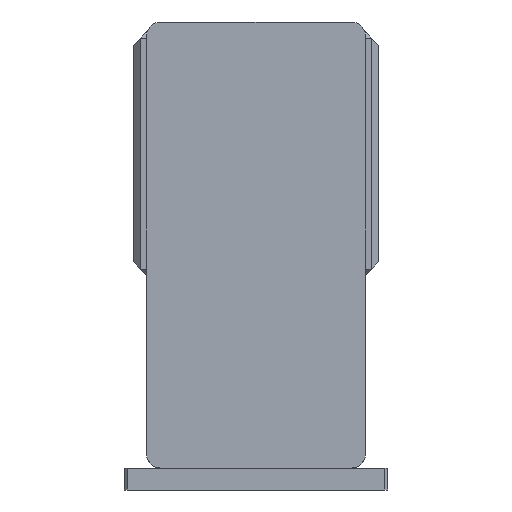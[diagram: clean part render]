
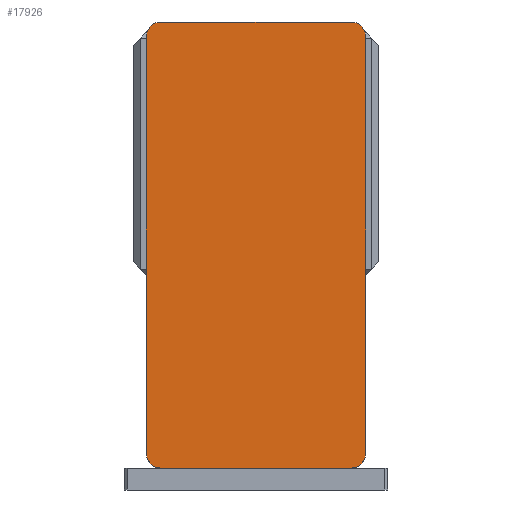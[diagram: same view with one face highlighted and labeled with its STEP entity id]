
A CAD part, left-side view. The second image highlights one B-rep face of the part: STEP entity #17926.
In plain terms, the highlighted planar face has unit normal (-1, 0, 0) as drawn and (0, 0, 1) by its records, which use the part's own axes.
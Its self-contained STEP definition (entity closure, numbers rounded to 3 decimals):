
#147 = DIRECTION ( 'NONE',  ( 1., 0., 0. ) ) ;
#178 = CARTESIAN_POINT ( 'NONE',  ( 65., 142.5, 105. ) ) ;
#251 = DIRECTION ( 'NONE',  ( 0., 0., 1. ) ) ;
#425 = CARTESIAN_POINT ( 'NONE',  ( -75., -152.5, 105. ) ) ;
#515 = EDGE_CURVE ( 'NONE', #10260, #17490, #11240, .T. ) ;
#602 = VERTEX_POINT ( 'NONE', #9959 ) ;
#976 = CARTESIAN_POINT ( 'NONE',  ( -75., 152.5, 105. ) ) ;
#1568 = EDGE_CURVE ( 'NONE', #19276, #1765, #6476, .T. ) ;
#1761 = DIRECTION ( 'NONE',  ( 1., 0., 0. ) ) ;
#1765 = VERTEX_POINT ( 'NONE', #18570 ) ;
#2155 = CARTESIAN_POINT ( 'NONE',  ( -75., -142.5, 105. ) ) ;
#2885 = EDGE_CURVE ( 'NONE', #1765, #6762, #4777, .T. ) ;
#3441 = DIRECTION ( 'NONE',  ( 1., 0., 0. ) ) ;
#3501 = DIRECTION ( 'NONE',  ( 0., 0., 1. ) ) ;
#3504 = EDGE_CURVE ( 'NONE', #602, #3937, #7214, .T. ) ;
#3531 = DIRECTION ( 'NONE',  ( 1., 0., 0. ) ) ;
#3572 = CARTESIAN_POINT ( 'NONE',  ( -65., -142.5, 105. ) ) ;
#3937 = VERTEX_POINT ( 'NONE', #9194 ) ;
#3946 = EDGE_CURVE ( 'NONE', #8766, #10260, #16060, .T. ) ;
#4580 = DIRECTION ( 'NONE',  ( 0., 0., 1. ) ) ;
#4616 = AXIS2_PLACEMENT_3D ( 'NONE', #3572, #3501, #3441 ) ;
#4618 = EDGE_CURVE ( 'NONE', #17490, #19276, #7928, .T. ) ;
#4777 = CIRCLE ( 'NONE', #11023, 10. ) ;
#4997 = CARTESIAN_POINT ( 'NONE',  ( -65., -152.5, 105. ) ) ;
#6105 = CARTESIAN_POINT ( 'NONE',  ( -65., 142.5, 105. ) ) ;
#6476 = LINE ( 'NONE', #425, #14526 ) ;
#6539 = FACE_OUTER_BOUND ( 'NONE', #15881, .T. ) ;
#6620 = CARTESIAN_POINT ( 'NONE',  ( -75., 142.5, 105. ) ) ;
#6762 = VERTEX_POINT ( 'NONE', #11098 ) ;
#7214 = CIRCLE ( 'NONE', #9643, 10. ) ;
#7265 = AXIS2_PLACEMENT_3D ( 'NONE', #6105, #14101, #12445 ) ;
#7928 = CIRCLE ( 'NONE', #4616, 10. ) ;
#8001 = CARTESIAN_POINT ( 'NONE',  ( 0., 0., 105. ) ) ;
#8766 = VERTEX_POINT ( 'NONE', #13614 ) ;
#9114 = DIRECTION ( 'NONE',  ( 0., 1., 0. ) ) ;
#9194 = CARTESIAN_POINT ( 'NONE',  ( 65., 152.5, 105. ) ) ;
#9604 = DIRECTION ( 'NONE',  ( 0., 0., 1. ) ) ;
#9643 = AXIS2_PLACEMENT_3D ( 'NONE', #178, #4580, #18279 ) ;
#9829 = ORIENTED_EDGE ( 'NONE', *, *, #1568, .T. ) ;
#9959 = CARTESIAN_POINT ( 'NONE',  ( 75., 142.5, 105. ) ) ;
#10260 = VERTEX_POINT ( 'NONE', #6620 ) ;
#10439 = DIRECTION ( 'NONE',  ( -1., 0., 0. ) ) ;
#10552 = LINE ( 'NONE', #976, #14362 ) ;
#10634 = ORIENTED_EDGE ( 'NONE', *, *, #2885, .T. ) ;
#10733 = VECTOR ( 'NONE', #18463, 1000. ) ;
#11023 = AXIS2_PLACEMENT_3D ( 'NONE', #16956, #251, #3531 ) ;
#11098 = CARTESIAN_POINT ( 'NONE',  ( 75., -142.5, 105. ) ) ;
#11240 = LINE ( 'NONE', #19757, #10733 ) ;
#11380 = ORIENTED_EDGE ( 'NONE', *, *, #19685, .T. ) ;
#11476 = VECTOR ( 'NONE', #9114, 1000. ) ;
#11837 = ORIENTED_EDGE ( 'NONE', *, *, #3504, .T. ) ;
#12407 = ORIENTED_EDGE ( 'NONE', *, *, #14262, .T. ) ;
#12445 = DIRECTION ( 'NONE',  ( 1., 0., 0. ) ) ;
#12848 = ORIENTED_EDGE ( 'NONE', *, *, #3946, .T. ) ;
#13614 = CARTESIAN_POINT ( 'NONE',  ( -65., 152.5, 105. ) ) ;
#13648 = ORIENTED_EDGE ( 'NONE', *, *, #515, .T. ) ;
#14101 = DIRECTION ( 'NONE',  ( 0., 0., 1. ) ) ;
#14262 = EDGE_CURVE ( 'NONE', #3937, #8766, #10552, .T. ) ;
#14356 = PLANE ( 'NONE',  #20249 ) ;
#14362 = VECTOR ( 'NONE', #10439, 1000. ) ;
#14526 = VECTOR ( 'NONE', #1761, 1000. ) ;
#14682 = ORIENTED_EDGE ( 'NONE', *, *, #4618, .T. ) ;
#15881 = EDGE_LOOP ( 'NONE', ( #9829, #10634, #11380, #11837, #12407, #12848, #13648, #14682 ) ) ;
#16060 = CIRCLE ( 'NONE', #7265, 10. ) ;
#16956 = CARTESIAN_POINT ( 'NONE',  ( 65., -142.5, 105. ) ) ;
#17210 = CARTESIAN_POINT ( 'NONE',  ( 75., 152.5, 105. ) ) ;
#17490 = VERTEX_POINT ( 'NONE', #2155 ) ;
#17926 = ADVANCED_FACE ( 'NONE', ( #6539 ), #14356, .T. ) ;
#18279 = DIRECTION ( 'NONE',  ( 1., 0., 0. ) ) ;
#18463 = DIRECTION ( 'NONE',  ( 0., -1., 0. ) ) ;
#18570 = CARTESIAN_POINT ( 'NONE',  ( 65., -152.5, 105. ) ) ;
#19276 = VERTEX_POINT ( 'NONE', #4997 ) ;
#19685 = EDGE_CURVE ( 'NONE', #6762, #602, #20483, .T. ) ;
#19757 = CARTESIAN_POINT ( 'NONE',  ( -75., 152.5, 105. ) ) ;
#20249 = AXIS2_PLACEMENT_3D ( 'NONE', #8001, #9604, #147 ) ;
#20483 = LINE ( 'NONE', #17210, #11476 ) ;
